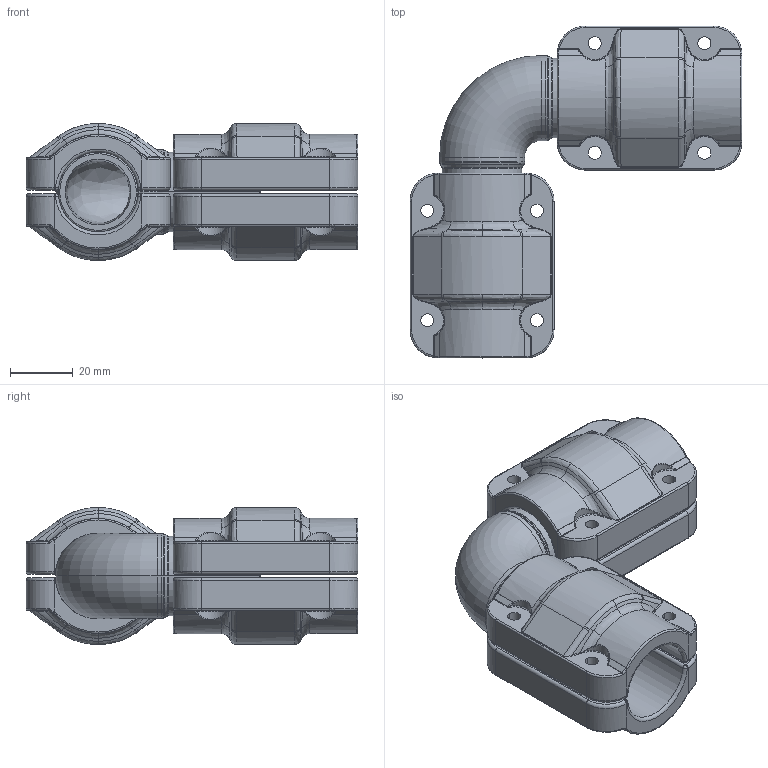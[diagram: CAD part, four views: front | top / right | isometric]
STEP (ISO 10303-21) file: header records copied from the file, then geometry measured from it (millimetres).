
FILE_DESCRIPTION((''),'2;1');
FILE_NAME('2015200399_ASM_11_ASM','2017-05-15T',('Administrator'),(''),'PRO/ENGINEER BY PARAMETRIC TECHNOLOGY CORPORATION, 2009360','PRO/ENGINEER BY PARAMETRIC TECHNOLOGY CORPORATION, 2009360','');
FILE_SCHEMA(('AUTOMOTIVE_DESIGN_CC2 { 1 2 10303 214 -1 1 5 2 }'));
Length unit declared in the file: millimetre
Products named in the file (5): 2015200300_10; 201520020000_23_1; 201520020001_10_1; 2015200200_ASM_1_ASM; 2015200399_ASM_11_ASM
Assembly tree (5 placements, depth 3):
  2015200399_ASM_11_ASM
    2015200300_10
    2015200200_ASM_1_ASM  x2
      201520020000_23_1
      201520020001_10_1
Bounding box: 106 x 106 x 43.8 mm (x, y, z)
Volume: 120556.8 mm3; surface area: 49402.1 mm2
Topology: 5 solids, 5 shells, 671 faces, 1606 edges, 929 vertices
Faces by surface type: bspline 289, cylinder 202, torus 98, plane 58, sphere 16, cone 8
Entity records: 18634 total; most frequent: CARTESIAN_POINT 8748, ORIENTED_EDGE 1700, DIRECTION 1268, PRESENTATION_STYLE_ASSIGNMENT 853, STYLED_ITEM 853, CURVE_STYLE 850, EDGE_CURVE 850, AXIS2_PLACEMENT_3D 550
